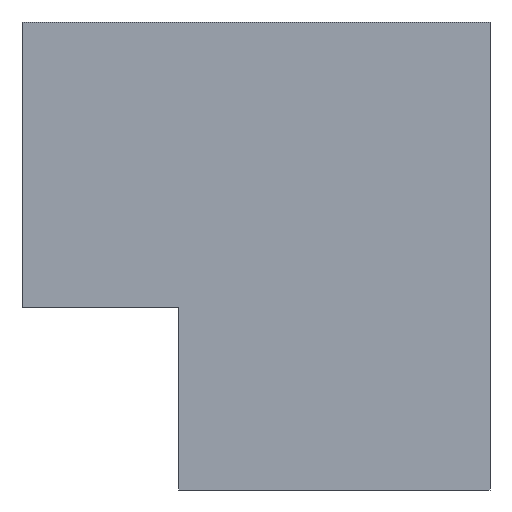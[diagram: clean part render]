
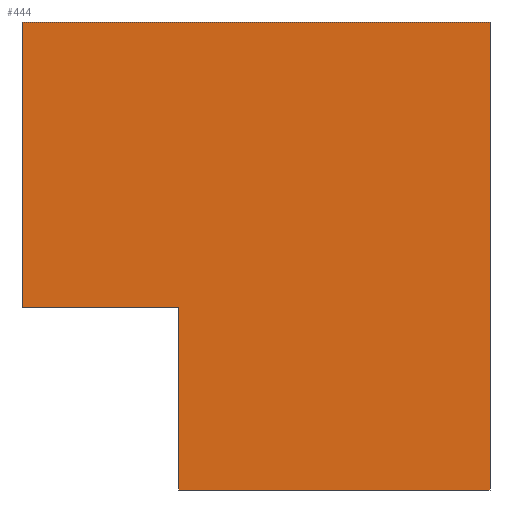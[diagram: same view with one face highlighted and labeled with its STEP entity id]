
A CAD part, left-side view. The second image highlights one B-rep face of the part: STEP entity #444.
In plain terms, the highlighted planar face has unit normal (-1, 0, 0).
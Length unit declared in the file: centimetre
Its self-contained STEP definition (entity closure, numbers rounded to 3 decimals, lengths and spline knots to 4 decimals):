
#8 = VECTOR ( 'NONE', #180, 100. ) ;
#9 = EDGE_CURVE ( 'NONE', #193, #110, #367, .T. ) ;
#15 = FACE_OUTER_BOUND ( 'NONE', #97, .T. ) ;
#24 = CARTESIAN_POINT ( 'NONE',  ( 0., 1000., 1000. ) ) ;
#26 = CARTESIAN_POINT ( 'NONE',  ( 0., 0., 1000. ) ) ;
#52 = CARTESIAN_POINT ( 'NONE',  ( 0., 1000., 0. ) ) ;
#83 = VECTOR ( 'NONE', #133, 100. ) ;
#97 = EDGE_LOOP ( 'NONE', ( #189, #630, #503, #524, #291, #556 ) ) ;
#102 = CARTESIAN_POINT ( 'NONE',  ( 0., 1000., 1000. ) ) ;
#110 = VERTEX_POINT ( 'NONE', #438 ) ;
#123 = AXIS2_PLACEMENT_3D ( 'NONE', #102, #206, #411 ) ;
#127 = CARTESIAN_POINT ( 'NONE',  ( 0., 665.4522, 390.5215 ) ) ;
#133 = DIRECTION ( 'NONE',  ( 0., -1., 0. ) ) ;
#146 = VECTOR ( 'NONE', #627, 100. ) ;
#180 = DIRECTION ( 'NONE',  ( 0., 0., -1. ) ) ;
#189 = ORIENTED_EDGE ( 'NONE', *, *, #471, .F. ) ;
#192 = VECTOR ( 'NONE', #319, 100. ) ;
#193 = VERTEX_POINT ( 'NONE', #24 ) ;
#206 = DIRECTION ( 'NONE',  ( 1., 0., 0. ) ) ;
#208 = CARTESIAN_POINT ( 'NONE',  ( 0., 1000., 1000. ) ) ;
#256 = DIRECTION ( 'NONE',  ( 0., 0., -1. ) ) ;
#265 = EDGE_CURVE ( 'NONE', #354, #468, #498, .T. ) ;
#275 = VECTOR ( 'NONE', #357, 100. ) ;
#291 = ORIENTED_EDGE ( 'NONE', *, *, #637, .F. ) ;
#319 = DIRECTION ( 'NONE',  ( 0., -1., 0. ) ) ;
#327 = LINE ( 'NONE', #624, #192 ) ;
#335 = VERTEX_POINT ( 'NONE', #451 ) ;
#354 = VERTEX_POINT ( 'NONE', #541 ) ;
#357 = DIRECTION ( 'NONE',  ( 0., 1., 0. ) ) ;
#367 = LINE ( 'NONE', #208, #609 ) ;
#369 = LINE ( 'NONE', #127, #8 ) ;
#402 = VERTEX_POINT ( 'NONE', #513 ) ;
#411 = DIRECTION ( 'NONE',  ( 0., 0., -1. ) ) ;
#424 = LINE ( 'NONE', #26, #146 ) ;
#438 = CARTESIAN_POINT ( 'NONE',  ( 0., 1000., 390.5215 ) ) ;
#444 = ADVANCED_FACE ( 'NONE', ( #15 ), #462, .F. ) ;
#451 = CARTESIAN_POINT ( 'NONE',  ( 0., 0., 1000. ) ) ;
#462 = PLANE ( 'NONE',  #123 ) ;
#468 = VERTEX_POINT ( 'NONE', #561 ) ;
#471 = EDGE_CURVE ( 'NONE', #402, #110, #509, .T. ) ;
#498 = LINE ( 'NONE', #52, #83 ) ;
#503 = ORIENTED_EDGE ( 'NONE', *, *, #265, .T. ) ;
#509 = LINE ( 'NONE', #616, #275 ) ;
#513 = CARTESIAN_POINT ( 'NONE',  ( 0., 665.4522, 390.5215 ) ) ;
#524 = ORIENTED_EDGE ( 'NONE', *, *, #566, .F. ) ;
#541 = CARTESIAN_POINT ( 'NONE',  ( 0., 665.4522, 0. ) ) ;
#556 = ORIENTED_EDGE ( 'NONE', *, *, #9, .T. ) ;
#561 = CARTESIAN_POINT ( 'NONE',  ( 0., 0., 0. ) ) ;
#566 = EDGE_CURVE ( 'NONE', #335, #468, #424, .T. ) ;
#592 = EDGE_CURVE ( 'NONE', #402, #354, #369, .T. ) ;
#609 = VECTOR ( 'NONE', #256, 100. ) ;
#616 = CARTESIAN_POINT ( 'NONE',  ( 0., 665.4522, 390.5215 ) ) ;
#624 = CARTESIAN_POINT ( 'NONE',  ( 0., 1000., 1000. ) ) ;
#627 = DIRECTION ( 'NONE',  ( 0., 0., -1. ) ) ;
#630 = ORIENTED_EDGE ( 'NONE', *, *, #592, .T. ) ;
#637 = EDGE_CURVE ( 'NONE', #193, #335, #327, .T. ) ;
